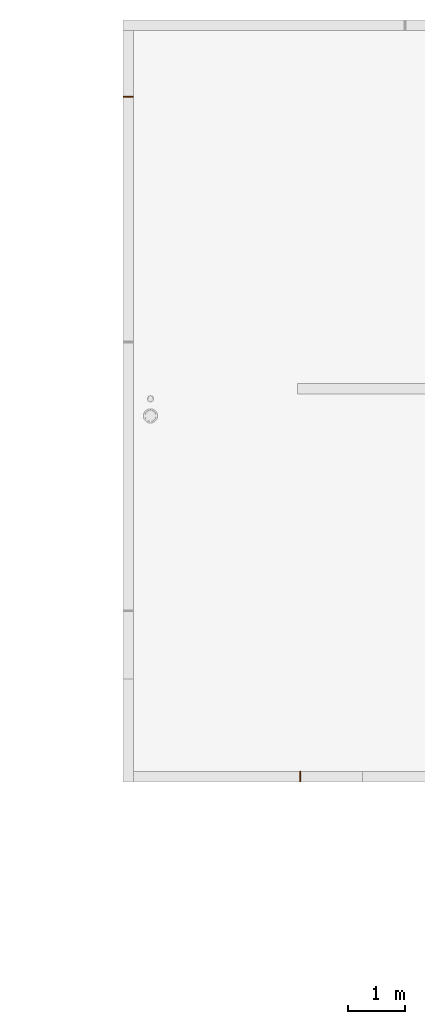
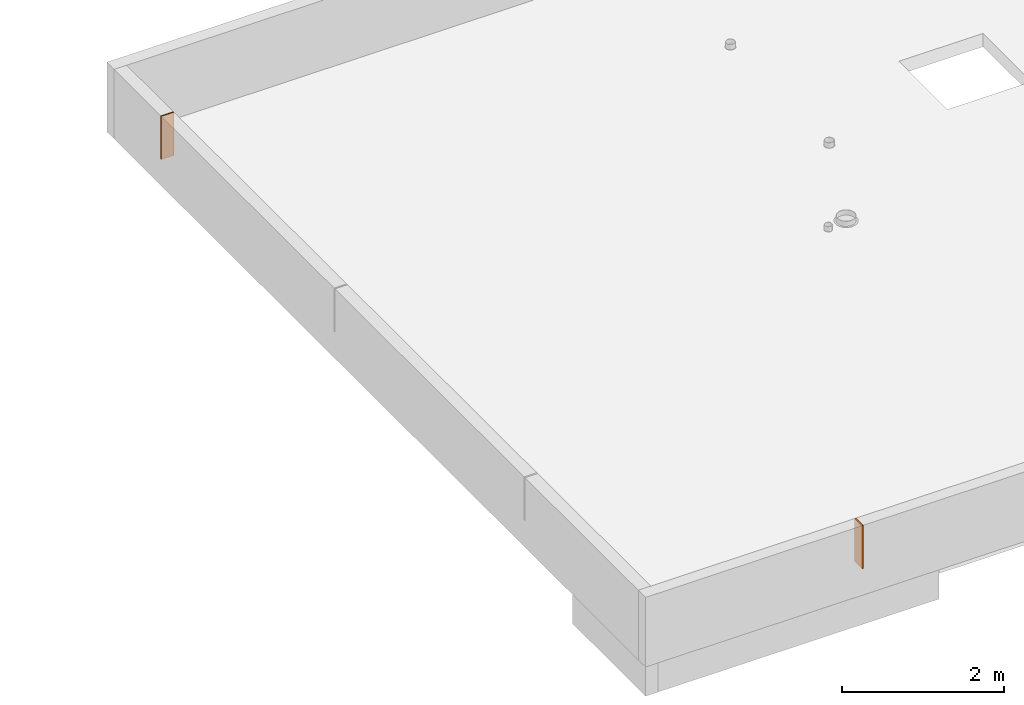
# One storey, part 10 of 12: 2 proxies.
"""IFC2X3 building model written with IfcOpenShell, lengths in centimetres."""

from ifc_helpers import new_model, entity, si_unit, converted_unit, derived_unit, direction, frame, frame_2d, origin, place, context, subcontext, project, spatial, rectangle, extrude, source, transform, mapped, material, type_object, type_shapes, element, save


model = new_model("IFC2X3")

# Units and contexts
model_context = context("Model", 3, precision=0.001, world=origin(), true_north=direction((6.12303176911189e-17, 1.0)))
body_context = subcontext(model_context, "Body", "Model", "MODEL_VIEW")
ifc_project = project(units=[si_unit("LENGTHUNIT", "METRE", prefix="CENTI"), si_unit("AREAUNIT", "SQUARE_METRE"), si_unit("VOLUMEUNIT", "CUBIC_METRE"), converted_unit("PLANEANGLEUNIT", "DEGREE", entity("IfcRatioMeasure", 0.0174532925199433), si_unit("PLANEANGLEUNIT", "RADIAN"), dimensions=[0, 0, 0, 0, 0, 0, 0]), si_unit("MASSUNIT", "GRAM", prefix="KILO"), derived_unit("MASSDENSITYUNIT", [(si_unit("MASSUNIT", "GRAM", prefix="KILO"), 1), (si_unit("LENGTHUNIT", "METRE"), -3)]), si_unit("TIMEUNIT", "SECOND"), si_unit("FREQUENCYUNIT", "HERTZ"), si_unit("THERMODYNAMICTEMPERATUREUNIT", "DEGREE_CELSIUS"), derived_unit("THERMALTRANSMITTANCEUNIT", [(si_unit("MASSUNIT", "GRAM", prefix="KILO"), 1), (si_unit("THERMODYNAMICTEMPERATUREUNIT", "KELVIN"), -1), (si_unit("TIMEUNIT", "SECOND"), -3)]), derived_unit("VOLUMETRICFLOWRATEUNIT", [(si_unit("LENGTHUNIT", "METRE"), 3), (si_unit("TIMEUNIT", "SECOND"), -1)]), si_unit("ELECTRICCURRENTUNIT", "AMPERE"), si_unit("ELECTRICVOLTAGEUNIT", "VOLT"), si_unit("POWERUNIT", "WATT"), si_unit("FORCEUNIT", "NEWTON"), si_unit("ILLUMINANCEUNIT", "LUX"), si_unit("LUMINOUSFLUXUNIT", "LUMEN"), si_unit("LUMINOUSINTENSITYUNIT", "CANDELA"), derived_unit("USERDEFINED", [(si_unit("MASSUNIT", "GRAM", prefix="KILO"), -1), (si_unit("LENGTHUNIT", "METRE"), -2), (si_unit("TIMEUNIT", "SECOND"), 3), (si_unit("LUMINOUSFLUXUNIT", "LUMEN"), 1)]), derived_unit("LINEARVELOCITYUNIT", [(si_unit("LENGTHUNIT", "METRE"), 1), (si_unit("TIMEUNIT", "SECOND"), -1)]), si_unit("PRESSUREUNIT", "PASCAL"), derived_unit("USERDEFINED", [(si_unit("LENGTHUNIT", "METRE"), -2), (si_unit("MASSUNIT", "GRAM", prefix="KILO"), 1), (si_unit("TIMEUNIT", "SECOND"), -2)])], contexts=[model_context])

# Site, building, storey
site_placement = place(None, origin())
site = spatial("IfcSite", under=ifc_project, at=site_placement, Name="Default", CompositionType="ELEMENT")
building_placement = place(site_placement, origin())
building = spatial("IfcBuilding", under=site, at=building_placement, Name="CAGE 03", CompositionType="ELEMENT")
storey_placement = place(building_placement, frame((0.0, 0.0, 1690.0)))
storey = spatial("IfcBuildingStorey", under=building, at=storey_placement, Name="R+6", CompositionType="ELEMENT", Elevation=1690.0)

# Proxies
ifc_material = material(Name="BBGO_Résa")
building_element_proxy_type_1 = type_object("IfcBuildingElementProxyType", Name="J.F.", PredefinedType="NOTDEFINED", material=ifc_material)
shared_shape_1 = source(origin(), body_context, "Body", "SweptSolid", [
    extrude(rectangle(XDim=18.0000000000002, YDim=1.99999999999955, at=frame_2d((-2.16715534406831e-13, 0.0), x_axis=(1.0, 0.0))), frame((9594.36582014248, 3805.66066607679, 1730.0), z_axis=(0.0, 0.0, 1.0), x_axis=(0.0, 1.0, 0.0)), (0.0, 0.0, 1.0), 64.9999999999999),
])
type_shapes(building_element_proxy_type_1, [shared_shape_1])
proxy_1_placement = place(storey_placement, frame((0.0, 0.0, -1690.0)))
element("IfcBuildingElementProxy", 1, at=proxy_1_placement, inside=storey, type_object=building_element_proxy_type_1, material=ifc_material, Name="BBGO-Résa rect et circ:J.F.", ObjectType="J.F.", context=body_context, shape_type="MappedRepresentation", body=[
    mapped(shared_shape_1, transform((0.0, 0.0, 0.0), scale=1.0)),
])
building_element_proxy_type_2 = type_object("IfcBuildingElementProxyType", Name="J.F.", PredefinedType="NOTDEFINED", material=ifc_material)
shared_shape_2 = source(origin(), body_context, "Body", "SweptSolid", [
    extrude(rectangle(XDim=17.9999999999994, YDim=2.00000000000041, at=frame_2d((0.0, 4.33209024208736e-13), x_axis=(1.0, 0.0))), frame((9293.36582014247, 4994.66066607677, 1730.0)), (0.0, 0.0, 1.0), 64.9999999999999),
])
type_shapes(building_element_proxy_type_2, [shared_shape_2])
proxy_2_placement = place(storey_placement, frame((0.0, 0.0, -1690.0)))
element("IfcBuildingElementProxy", 2, at=proxy_2_placement, inside=storey, type_object=building_element_proxy_type_2, material=ifc_material, Name="BBGO-Résa rect et circ:J.F.", ObjectType="J.F.", context=body_context, shape_type="MappedRepresentation", body=[
    mapped(shared_shape_2, transform((0.0, 0.0, 0.0), scale=1.0)),
])

save(model, "model.ifc")
